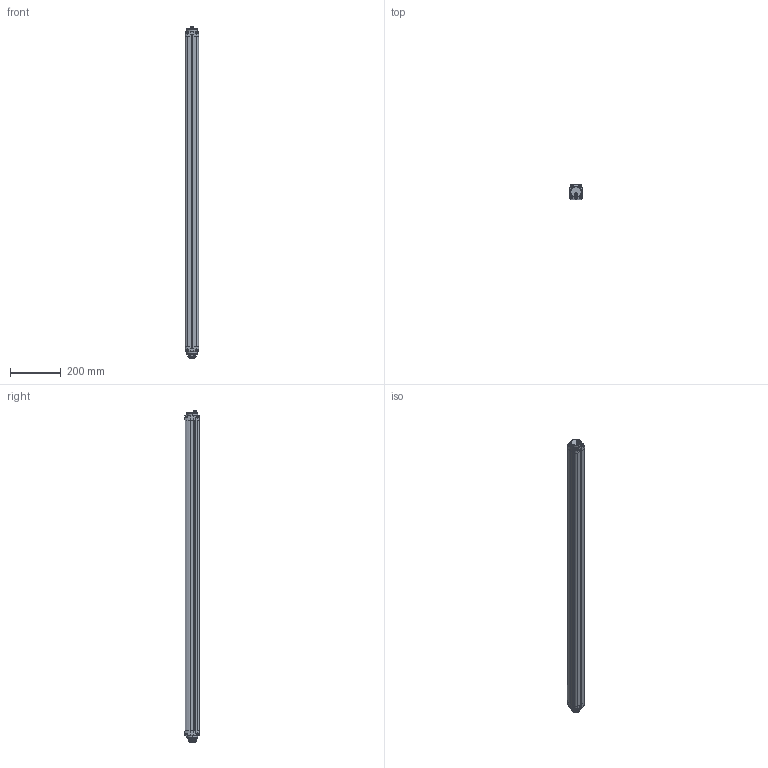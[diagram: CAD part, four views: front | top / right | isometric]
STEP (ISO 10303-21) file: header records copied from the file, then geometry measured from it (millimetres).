
FILE_DESCRIPTION(('STEP AP214'),'1');
FILE_NAME('SGBodyBigBase_120_safetylightcurtains.stp','2017-11-09T11:08:52',('3D-Tool'),(' '),'Spatial InterOp 3D',' ',' ');
FILE_SCHEMA(('AUTOMOTIVE_DESIGN { 1 0 10303 214 1 1 1 1 }'));
Length unit declared in the file: millimetre
Products named in the file (1): 1
Bounding box: 52 x 56.93 x 1306.4 mm (x, y, z)
Surface area: 327820.4 mm2 (no closed solid volume)
Topology: 0 solids, 1047 shells, 1047 faces, 5740 edges, 5709 vertices
Faces by surface type: bspline 1047
Entity records: 129087 total; most frequent: CARTESIAN_POINT 67936, ORIENTED_EDGE 5709, EDGE_CURVE 5709, VERTEX_POINT 5709, PRESENTATION_STYLE_ASSIGNMENT 4078, COLOUR_RGB 4078, DIRECTION 4073, B_SPLINE_CURVE_WITH_KNOTS 3673
